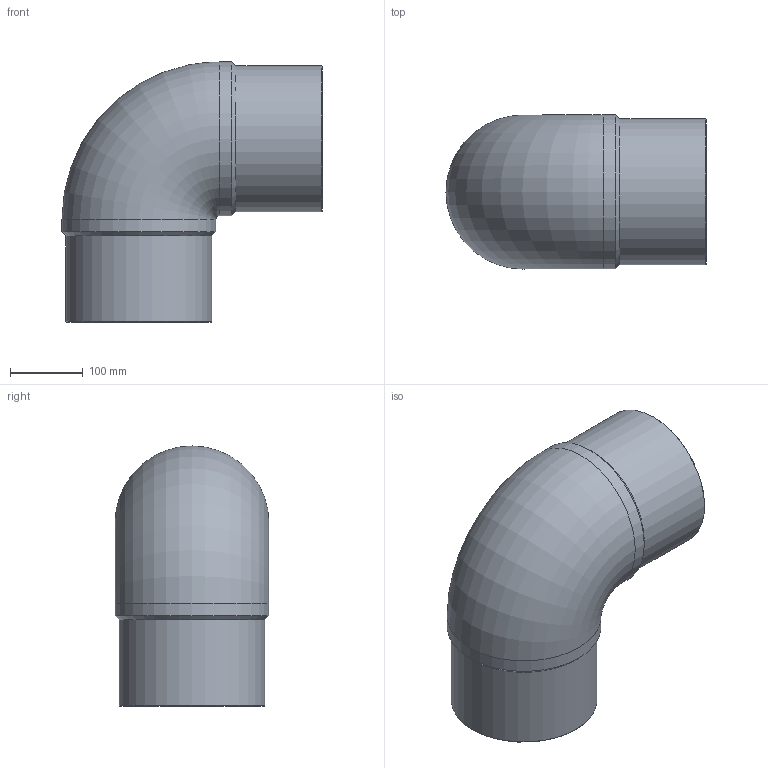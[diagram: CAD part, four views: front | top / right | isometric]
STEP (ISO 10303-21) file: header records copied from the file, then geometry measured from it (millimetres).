
FILE_DESCRIPTION(/* description */ ('Unknown'),/* implementation_level */ '2;1');
FILE_NAME(/* name */ 'G9P200C',/* time_stamp */ '2021-11-15T10:25:08+01:00',/* author */ ('Unknown'),/* organization */ ('Unknown'),/* preprocessor_version */ 'ST-DEVELOPER v16.7',/* originating_system */ 'Solid Edge',/* authorisation */ 'Unknown');
FILE_SCHEMA (('AUTOMOTIVE_DESIGN {1 0 10303 214 3 1 1}'));
Length unit declared in the file: millimetre
Products named in the file (1): G9P200C
Bounding box: 356.5 x 211 x 356.5 mm (x, y, z)
Volume: 5567482.4 mm3; surface area: 551034.2 mm2
Topology: 1 solids, 1 shells, 14 faces, 34 edges, 22 vertices
Faces by surface type: cylinder 6, cone 4, plane 2, torus 2
Full cylindrical faces by diameter (mm): 163.6 x2, 200 x2, 211 x2
Entity records: 376 total; most frequent: CARTESIAN_POINT 76, DIRECTION 60, ORIENTED_EDGE 38, AXIS2_PLACEMENT_3D 30, EDGE_LOOP 27, FACE_BOUND 27, EDGE_CURVE 19, VERTEX_POINT 18
